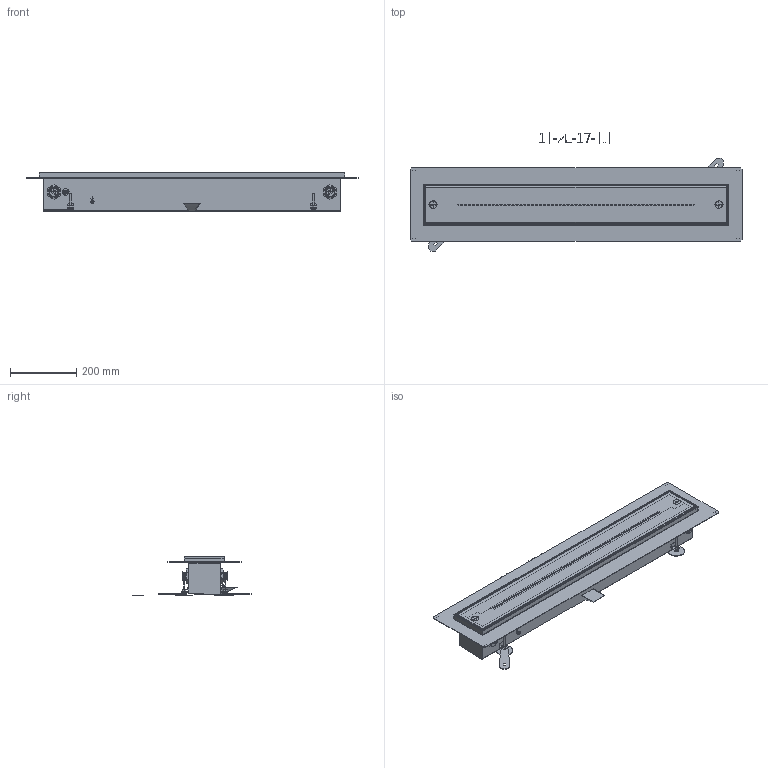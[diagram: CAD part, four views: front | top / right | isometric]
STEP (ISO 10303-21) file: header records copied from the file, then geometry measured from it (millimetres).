
FILE_DESCRIPTION(/* description */ (''),/* implementation_level */ '2;1');
FILE_NAME(/* name */ '3d-Joulia_10-92-17-0.0',/* time_stamp */ '2025-01-20T16:12:31+01:00',/* author */ (''),/* organization */ (''),/* preprocessor_version */ 'ST-DEVELOPER v16.5',/* originating_system */ 'Rhino 7.37',/* authorisation */ '');
FILE_SCHEMA (('AUTOMOTIVE_DESIGN_CC2'));
Products named in the file (1): Document
Bounding box: 998.7 x 355.05 x 119.31 mm (x, y, z)
Volume: 1220279.9 mm3; surface area: 1644640.6 mm2
Topology: 26 solids, 115 shells, 1851 faces, 5015 edges, 3303 vertices
Faces by surface type: bspline 1851
Entity records: 191826 total; most frequent: CARTESIAN_POINT 129893, B_SPLINE_CURVE_WITH_KNOTS 11502, ORIENTED_EDGE 9506, PCURVE 9506, DEFINITIONAL_REPRESENTATION 9506, SURFACE_CURVE 4944, EDGE_CURVE 4944, VERTEX_POINT 3290
